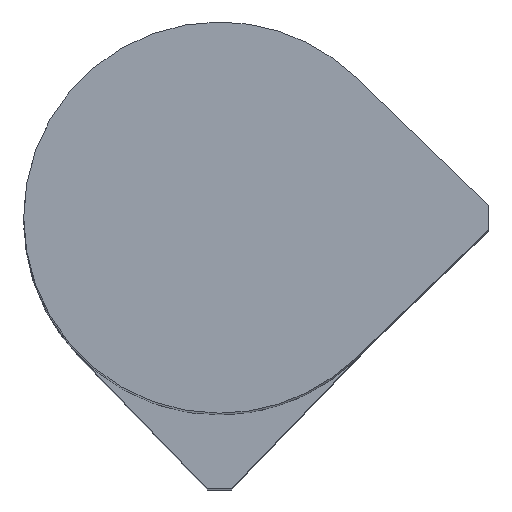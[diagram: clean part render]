
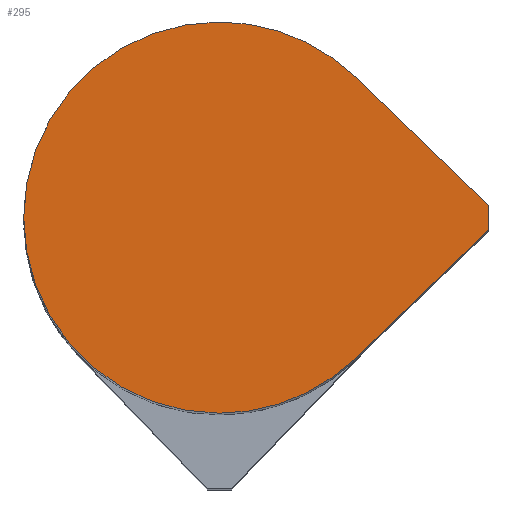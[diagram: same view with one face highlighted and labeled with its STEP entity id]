
A CAD part, top view. The second image highlights one B-rep face of the part: STEP entity #295.
In plain terms, the highlighted planar face has unit normal (0, 0, 1) as drawn and (0, 0, -1) by its records, which use the part's own axes.
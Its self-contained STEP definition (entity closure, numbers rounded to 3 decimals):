
#7 = EDGE_CURVE ( 'NONE', #1518, #1703, #1235, .T. ) ;
#169 = VECTOR ( 'NONE', #1316, 1000. ) ;
#239 = ORIENTED_EDGE ( 'NONE', *, *, #373, .F. ) ;
#295 = ADVANCED_FACE ( 'NONE', ( #922 ), #629, .F. ) ;
#347 = EDGE_CURVE ( 'NONE', #1209, #1518, #410, .T. ) ;
#373 = EDGE_CURVE ( 'NONE', #837, #1209, #506, .T. ) ;
#379 = VECTOR ( 'NONE', #1217, 1000. ) ;
#410 = LINE ( 'NONE', #1210, #379 ) ;
#431 = EDGE_CURVE ( 'NONE', #532, #837, #1445, .T. ) ;
#467 = CARTESIAN_POINT ( 'NONE',  ( 0., 0., 0. ) ) ;
#495 = EDGE_CURVE ( 'NONE', #1703, #863, #1384, .T. ) ;
#506 = LINE ( 'NONE', #1295, #169 ) ;
#507 = DIRECTION ( 'NONE',  ( 0., 0., 1. ) ) ;
#519 = CARTESIAN_POINT ( 'NONE',  ( 0., 0., 0. ) ) ;
#532 = VERTEX_POINT ( 'NONE', #1551 ) ;
#593 = AXIS2_PLACEMENT_3D ( 'NONE', #519, #637, #646 ) ;
#607 = DIRECTION ( 'NONE',  ( 1., 0., 0. ) ) ;
#629 = PLANE ( 'NONE',  #593 ) ;
#637 = DIRECTION ( 'NONE',  ( 0., 0., 1. ) ) ;
#646 = DIRECTION ( 'NONE',  ( 1., 0., 0. ) ) ;
#751 = CARTESIAN_POINT ( 'NONE',  ( 0.25, -5.5, 0. ) ) ;
#802 = CIRCLE ( 'NONE', #977, 4. ) ;
#837 = VERTEX_POINT ( 'NONE', #1482 ) ;
#863 = VERTEX_POINT ( 'NONE', #1698 ) ;
#922 = FACE_OUTER_BOUND ( 'NONE', #1386, .T. ) ;
#952 = ORIENTED_EDGE ( 'NONE', *, *, #1786, .F. ) ;
#977 = AXIS2_PLACEMENT_3D ( 'NONE', #1798, #1793, #1791 ) ;
#1055 = CARTESIAN_POINT ( 'NONE',  ( 2.878, -2.778, 0. ) ) ;
#1110 = VECTOR ( 'NONE', #1301, 1000. ) ;
#1137 = CARTESIAN_POINT ( 'NONE',  ( -0.25, -5.5, 0. ) ) ;
#1209 = VERTEX_POINT ( 'NONE', #1137 ) ;
#1210 = CARTESIAN_POINT ( 'NONE',  ( 0.25, -5.5, 0. ) ) ;
#1217 = DIRECTION ( 'NONE',  ( 1., 0., 0. ) ) ;
#1235 = LINE ( 'NONE', #1055, #1110 ) ;
#1236 = CARTESIAN_POINT ( 'NONE',  ( 0., 0., 0. ) ) ;
#1238 = ORIENTED_EDGE ( 'NONE', *, *, #495, .F. ) ;
#1295 = CARTESIAN_POINT ( 'NONE',  ( -0.25, -5.5, 0. ) ) ;
#1301 = DIRECTION ( 'NONE',  ( 0.695, 0.719, 0. ) ) ;
#1305 = DIRECTION ( 'NONE',  ( 0., 0., 1. ) ) ;
#1316 = DIRECTION ( 'NONE',  ( 0.695, -0.719, 0. ) ) ;
#1350 = DIRECTION ( 'NONE',  ( 1., 0., 0. ) ) ;
#1384 = CIRCLE ( 'NONE', #1797, 4. ) ;
#1386 = EDGE_LOOP ( 'NONE', ( #1238, #1516, #1442, #239, #1546, #952 ) ) ;
#1426 = AXIS2_PLACEMENT_3D ( 'NONE', #467, #507, #607 ) ;
#1442 = ORIENTED_EDGE ( 'NONE', *, *, #347, .F. ) ;
#1445 = CIRCLE ( 'NONE', #1426, 4. ) ;
#1482 = CARTESIAN_POINT ( 'NONE',  ( -2.878, -2.778, 0. ) ) ;
#1516 = ORIENTED_EDGE ( 'NONE', *, *, #7, .F. ) ;
#1518 = VERTEX_POINT ( 'NONE', #751 ) ;
#1546 = ORIENTED_EDGE ( 'NONE', *, *, #431, .F. ) ;
#1551 = CARTESIAN_POINT ( 'NONE',  ( -4., 0., 0. ) ) ;
#1655 = CARTESIAN_POINT ( 'NONE',  ( 2.878, -2.778, 0. ) ) ;
#1698 = CARTESIAN_POINT ( 'NONE',  ( 4., 0., 0. ) ) ;
#1703 = VERTEX_POINT ( 'NONE', #1655 ) ;
#1786 = EDGE_CURVE ( 'NONE', #863, #532, #802, .T. ) ;
#1791 = DIRECTION ( 'NONE',  ( 1., 0., 0. ) ) ;
#1793 = DIRECTION ( 'NONE',  ( 0., 0., 1. ) ) ;
#1797 = AXIS2_PLACEMENT_3D ( 'NONE', #1236, #1305, #1350 ) ;
#1798 = CARTESIAN_POINT ( 'NONE',  ( 0., 0., 0. ) ) ;
